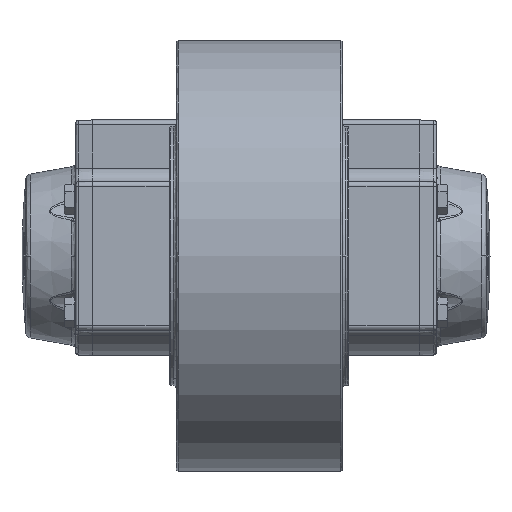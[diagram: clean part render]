
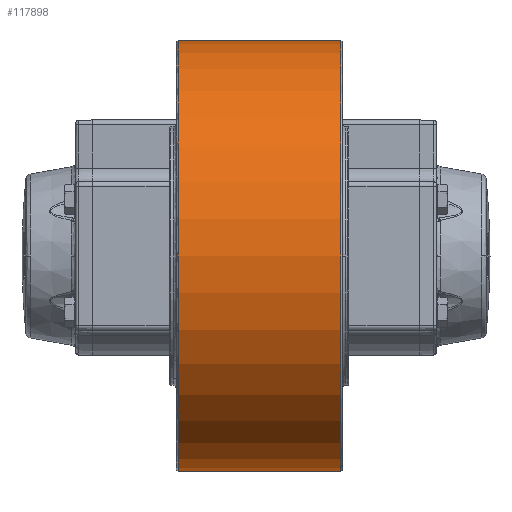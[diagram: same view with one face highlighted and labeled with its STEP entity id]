
A CAD part, front view. The second image highlights one B-rep face of the part: STEP entity #117898.
In plain terms, the highlighted cylindrical face has radius 65 mm (diameter 130 mm), a partial arc.
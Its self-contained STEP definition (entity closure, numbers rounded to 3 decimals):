
#5630 = ORIENTED_EDGE ( 'NONE', *, *, #36074, .F. ) ;
#5917 = EDGE_CURVE ( 'NONE', #103228, #18273, #55360, .T. ) ;
#6977 = ORIENTED_EDGE ( 'NONE', *, *, #5917, .F. ) ;
#15955 = ORIENTED_EDGE ( 'NONE', *, *, #98993, .F. ) ;
#18273 = VERTEX_POINT ( 'NONE', #37397 ) ;
#19865 = EDGE_LOOP ( 'NONE', ( #105386, #5630, #6977, #81808, #15955 ) ) ;
#25356 = CIRCLE ( 'NONE', #89542, 65. ) ;
#25782 = CARTESIAN_POINT ( 'NONE',  ( 25.5, 0., -65. ) ) ;
#26015 = CARTESIAN_POINT ( 'NONE',  ( 25.5, 0., 0. ) ) ;
#30584 = FACE_OUTER_BOUND ( 'NONE', #19865, .T. ) ;
#30981 = CARTESIAN_POINT ( 'NONE',  ( 25.5, 0., 0. ) ) ;
#33216 = DIRECTION ( 'NONE',  ( -1., 0., 0. ) ) ;
#33261 = CARTESIAN_POINT ( 'NONE',  ( 25.5, 0., 0. ) ) ;
#35612 = VECTOR ( 'NONE', #98394, 1000. ) ;
#36074 = EDGE_CURVE ( 'NONE', #18273, #76676, #25356, .T. ) ;
#36243 = CARTESIAN_POINT ( 'NONE',  ( -23.5, 0., -65. ) ) ;
#36600 = VERTEX_POINT ( 'NONE', #67999 ) ;
#37397 = CARTESIAN_POINT ( 'NONE',  ( 25.5, -65., 0. ) ) ;
#40313 = DIRECTION ( 'NONE',  ( 0., 0., 1. ) ) ;
#42538 = DIRECTION ( 'NONE',  ( 0., 0., 1. ) ) ;
#45851 = LINE ( 'NONE', #99720, #94986 ) ;
#55360 = CIRCLE ( 'NONE', #102461, 65. ) ;
#65236 = CYLINDRICAL_SURFACE ( 'NONE', #113954, 65. ) ;
#65781 = AXIS2_PLACEMENT_3D ( 'NONE', #88573, #33216, #97879 ) ;
#66456 = EDGE_CURVE ( 'NONE', #76676, #105387, #45851, .T. ) ;
#67999 = CARTESIAN_POINT ( 'NONE',  ( -23.5, 0., 65. ) ) ;
#70418 = CARTESIAN_POINT ( 'NONE',  ( 25.5, 0., 65. ) ) ;
#76676 = VERTEX_POINT ( 'NONE', #25782 ) ;
#81310 = DIRECTION ( 'NONE',  ( -1., 0., 0. ) ) ;
#81712 = DIRECTION ( 'NONE',  ( 0., 0., 1. ) ) ;
#81808 = ORIENTED_EDGE ( 'NONE', *, *, #101678, .T. ) ;
#82471 = CIRCLE ( 'NONE', #65781, 65. ) ;
#84736 = LINE ( 'NONE', #89080, #35612 ) ;
#88573 = CARTESIAN_POINT ( 'NONE',  ( -23.5, 0., 0. ) ) ;
#89080 = CARTESIAN_POINT ( 'NONE',  ( 25.5, 0., 65. ) ) ;
#89542 = AXIS2_PLACEMENT_3D ( 'NONE', #30981, #95623, #40313 ) ;
#94986 = VECTOR ( 'NONE', #117774, 1000. ) ;
#95623 = DIRECTION ( 'NONE',  ( 1., 0., 0. ) ) ;
#97879 = DIRECTION ( 'NONE',  ( 0., 0., 1. ) ) ;
#97917 = DIRECTION ( 'NONE',  ( 1., 0., 0. ) ) ;
#98394 = DIRECTION ( 'NONE',  ( -1., 0., 0. ) ) ;
#98993 = EDGE_CURVE ( 'NONE', #105387, #36600, #82471, .T. ) ;
#99720 = CARTESIAN_POINT ( 'NONE',  ( 25.5, 0., -65. ) ) ;
#101678 = EDGE_CURVE ( 'NONE', #103228, #36600, #84736, .T. ) ;
#102461 = AXIS2_PLACEMENT_3D ( 'NONE', #33261, #97917, #42538 ) ;
#103228 = VERTEX_POINT ( 'NONE', #70418 ) ;
#105386 = ORIENTED_EDGE ( 'NONE', *, *, #66456, .F. ) ;
#105387 = VERTEX_POINT ( 'NONE', #36243 ) ;
#113954 = AXIS2_PLACEMENT_3D ( 'NONE', #26015, #81310, #81712 ) ;
#117774 = DIRECTION ( 'NONE',  ( -1., 0., 0. ) ) ;
#117898 = ADVANCED_FACE ( 'NONE', ( #30584 ), #65236, .T. ) ;
